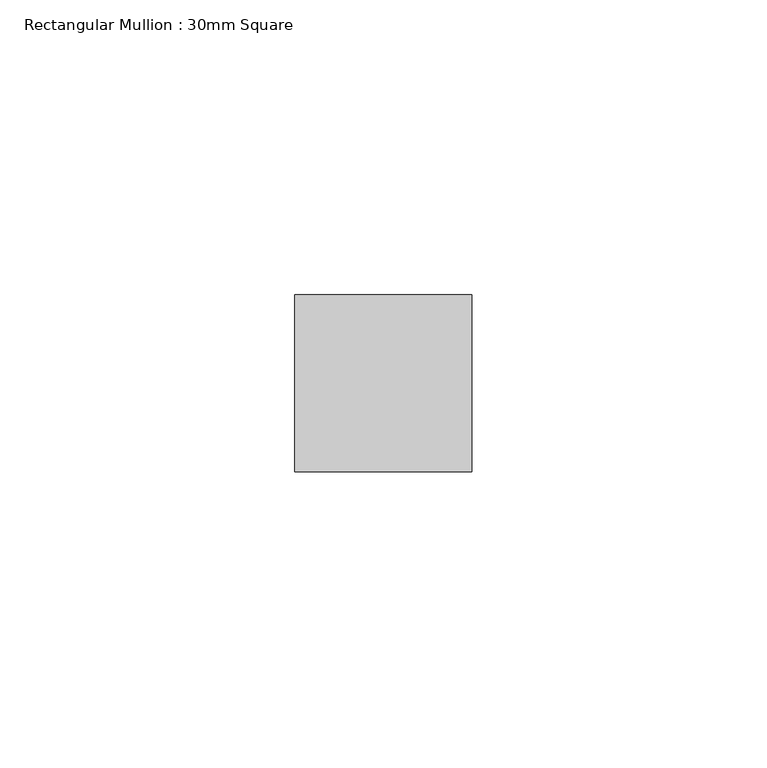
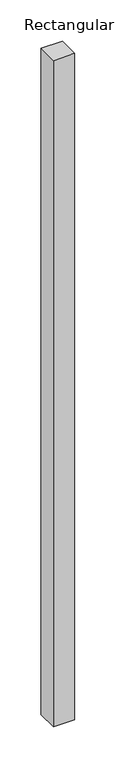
"""IFC4 building model written with IfcOpenShell, lengths in millimetres: member geometry, Rectangular Mullion : 30mm Square."""

from ifc_helpers import new_model, si_unit, frame, origin, place, context, project, spatial, polyline, outline, extrude, source, transform, mapped, element, save


def rectangular_mullion_30mm_square_ba462b89(model_context):
    return source(origin(), model_context, "Body", "SweptSolid", [
        extrude(outline(polyline([(0.0, 15.0), (0.0, -15.0), (-30.0, -15.0), (-30.0, 15.0), (0.0, 15.0)])), frame((0.0, 0.0, -988.2074618), z_axis=(0.0, 0.0, 1.0), x_axis=(1.0, 0.0, 0.0)), (0.0, 0.0, 1.0), 988.2074618),
    ])


if __name__ == "__main__":
    model = new_model("IFC4")
    model_context = context("Model", 3, world=origin())
    ifc_project = project(units=[si_unit("LENGTHUNIT", "METRE", prefix="MILLI")], contexts=[model_context])
    site = spatial("IfcSite", under=ifc_project)
    building = spatial("IfcBuilding", under=site)
    placement = place(None, origin())
    rectangular_mullion_30mm_square_shape = rectangular_mullion_30mm_square_ba462b89(model_context)
    element("IfcMember", 1, ObjectType="Rectangular Mullion : 30mm Square", at=placement, inside=building, context=model_context, shape_type="MappedRepresentation", body=[
        mapped(rectangular_mullion_30mm_square_shape, transform((0.0, 0.0, 0.0), x_axis=(1.0, 0.0, 0.0), y_axis=(0.0, 1.0, 0.0), z_axis=(0.0, 0.0, 1.0))),
    ])
    save(model, "model.ifc")
